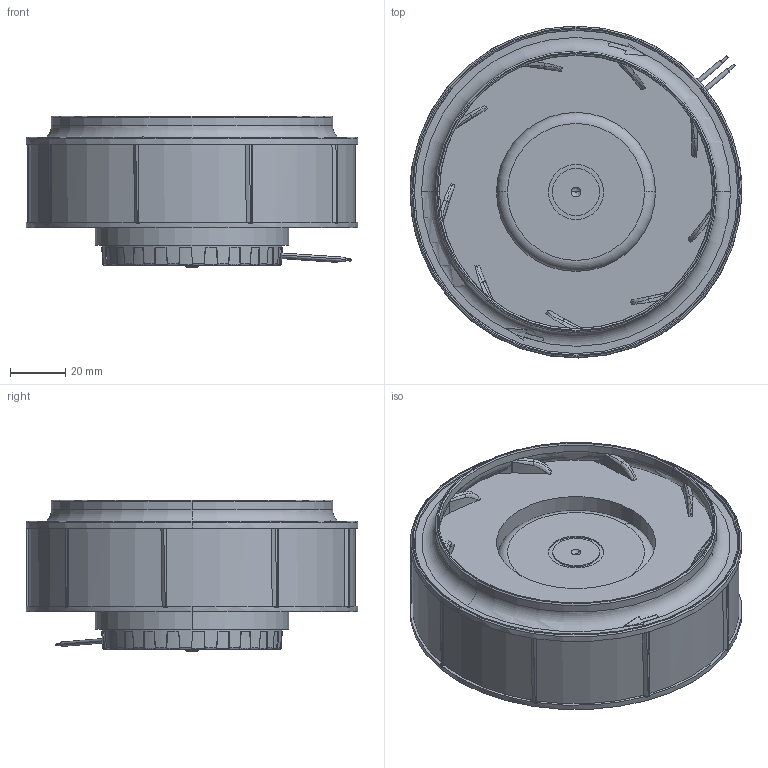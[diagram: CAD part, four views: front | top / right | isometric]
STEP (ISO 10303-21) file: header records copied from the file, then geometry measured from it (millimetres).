
FILE_DESCRIPTION((''),'2;1');
FILE_NAME('S3','2026-09-29T10:55:34',('pc'),(''),'CREO PARAMETRIC BY PTC INC, 2018050','CREO PARAMETRIC BY PTC INC, 2018050','');
FILE_SCHEMA(('CONFIG_CONTROL_DESIGN','GEOMETRIC_VALIDATION_PROPERTIES_MIM'));
Products named in the file (1): S3
Bounding box: 120.2 x 120.19 x 54.85 mm (x, y, z)
Volume: 382926.2 mm3; surface area: 56799.1 mm2
Topology: 1 solids, 2 shells, 1872 faces, 5630 edges, 3874 vertices
Faces by surface type: plane 921, extrusion 462, cone 249, cylinder 89, bspline 78, torus 73
Entity records: 98384 total; most frequent: CARTESIAN_POINT 35024, ORIENTED_EDGE 11260, DIRECTION 8551, EDGE_CURVE 5630, VERTEX_POINT 3874, VECTOR 3143, AXIS2_PLACEMENT_3D 2704, LINE 2681
